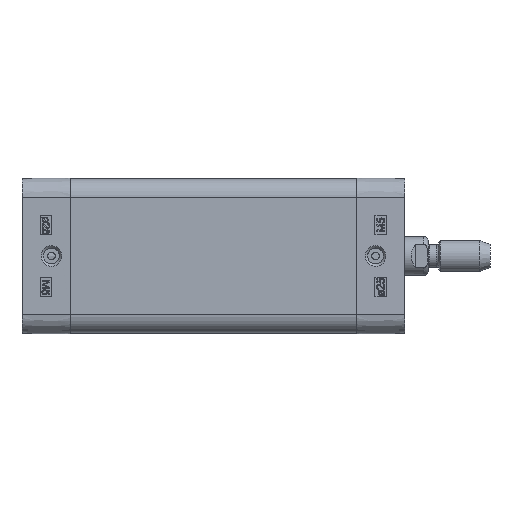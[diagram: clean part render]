
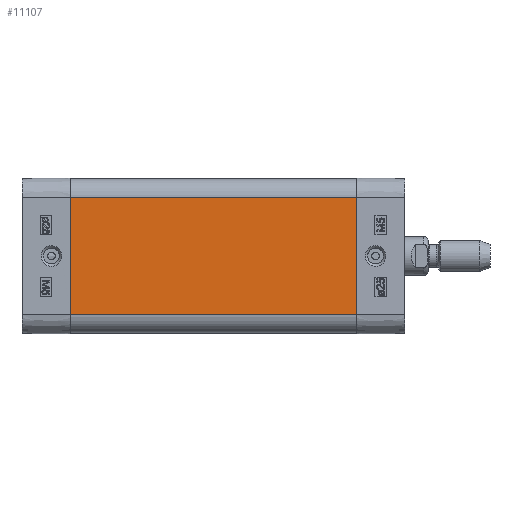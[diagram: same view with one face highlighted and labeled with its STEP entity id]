
A CAD part, left-side view. The second image highlights one B-rep face of the part: STEP entity #11107.
In plain terms, the highlighted planar face has unit normal (-1, 0, 0).
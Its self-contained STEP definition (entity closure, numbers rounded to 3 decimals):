
#8889=CARTESIAN_POINT('',(-20.,-74.0,15.0));
#8890=VERTEX_POINT('',#8889);
#8898=CARTESIAN_POINT('',(-20.,-74.0,-15.));
#8899=VERTEX_POINT('',#8898);
#8900=CARTESIAN_POINT('',(-20.,-74.0,-15.));
#8901=DIRECTION('',(0.0,0.0,1.0));
#8902=VECTOR('',#8901,30.);
#8903=LINE('',#8900,#8902);
#8904=EDGE_CURVE('',#8899,#8890,#8903,.T.);
#10035=CARTESIAN_POINT('',(-20.,0.0,15.0));
#10036=VERTEX_POINT('',#10035);
#10044=CARTESIAN_POINT('',(-20.,0.0,15.0));
#10045=DIRECTION('',(0.0,-1.0,0.0));
#10046=VECTOR('',#10045,74.0);
#10047=LINE('',#10044,#10046);
#10048=EDGE_CURVE('',#10036,#8890,#10047,.T.);
#11072=CARTESIAN_POINT('',(-20.,0.0,-15.));
#11073=VERTEX_POINT('',#11072);
#11074=CARTESIAN_POINT('',(-20.,0.0,-15.));
#11075=DIRECTION('',(0.0,-1.0,0.0));
#11076=VECTOR('',#11075,74.0);
#11077=LINE('',#11074,#11076);
#11078=EDGE_CURVE('',#11073,#8899,#11077,.T.);
#11091=CARTESIAN_POINT('',(-20.,0.0,-15.));
#11092=DIRECTION('',(-1.0,0.0,0.0));
#11093=DIRECTION('',(0.0,0.0,1.0));
#11094=AXIS2_PLACEMENT_3D('',#11091,#11092,#11093);
#11095=PLANE('',#11094);
#11096=ORIENTED_EDGE('',*,*,#8904,.T.);
#11097=ORIENTED_EDGE('',*,*,#10048,.F.);
#11098=CARTESIAN_POINT('',(-20.,0.0,-15.));
#11099=DIRECTION('',(0.0,0.0,1.0));
#11100=VECTOR('',#11099,30.);
#11101=LINE('',#11098,#11100);
#11102=EDGE_CURVE('',#11073,#10036,#11101,.T.);
#11103=ORIENTED_EDGE('',*,*,#11102,.F.);
#11104=ORIENTED_EDGE('',*,*,#11078,.T.);
#11105=EDGE_LOOP('',(#11096,#11097,#11103,#11104));
#11106=FACE_OUTER_BOUND('',#11105,.T.);
#11107=ADVANCED_FACE('',(#11106),#11095,.T.);
